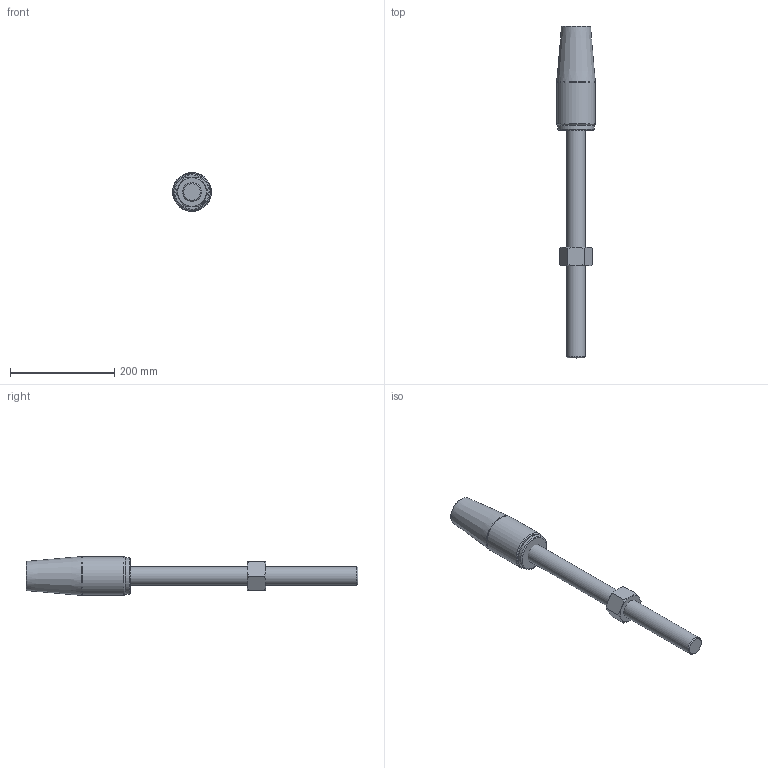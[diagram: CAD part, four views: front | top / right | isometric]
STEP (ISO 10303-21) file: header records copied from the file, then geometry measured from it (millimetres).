
FILE_DESCRIPTION(/* description */ (''),/* implementation_level */ '2;1');
FILE_NAME(/* name */ 'D:\Clienti\Redaelli (inventor)\CYB\STEP\Arrangement\CYB024 52 061 0.stp',/* time_stamp */ '2021-05-08T14:30:18+02:00',/* author */ ('fabri'),/* organization */ (''),/* preprocessor_version */ 'ST-DEVELOPER v16.13',/* originating_system */ 'Autodesk Inventor 2018',/* authorisation */ '');
FILE_SCHEMA (('AUTOMOTIVE_DESIGN { 1 0 10303 214 3 1 1 }'));
Length unit declared in the file: millimetre
Products named in the file (5): CYB012-52-061-0; RNT020 41 051 0_ROD; UNI 5587 - M36 x 3; CCY021-51-061-0_BUSH; CCY021-51-061-0
Assembly tree (4 placements, depth 2):
  CYB012-52-061-0
    RNT020 41 051 0_ROD
    UNI 5587 - M36 x 3
    CCY021-51-061-0_BUSH
    CCY021-51-061-0
Bounding box: 74.99 x 638 x 74.99 mm (x, y, z)
Volume: 1410282.7 mm3; surface area: 143880.7 mm2
Topology: 4 solids, 4 shells, 692 faces, 1845 edges, 1223 vertices
Faces by surface type: plane 334, bspline 328, cone 19, cylinder 7, torus 4
Full cylindrical faces by diameter (mm): 32.752 x2, 36 x1, 50 x1, 56 x1, 70 x1, 75 x1
Entity records: 23125 total; most frequent: CARTESIAN_POINT 8074, ORIENTED_EDGE 3650, DIRECTION 1931, EDGE_CURVE 1825, VERTEX_POINT 1221, LINE 1107, VECTOR 1107, EDGE_LOOP 776
